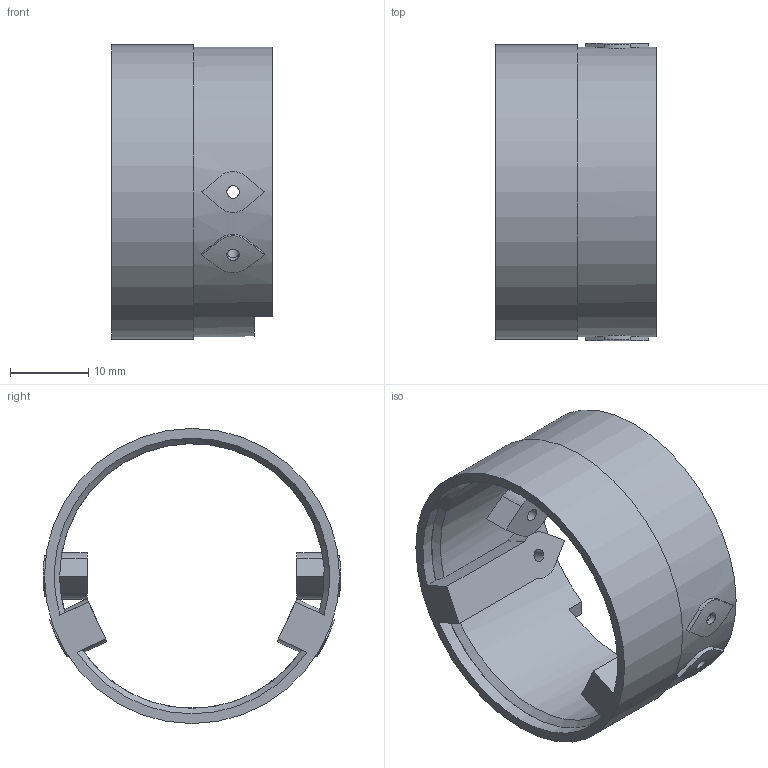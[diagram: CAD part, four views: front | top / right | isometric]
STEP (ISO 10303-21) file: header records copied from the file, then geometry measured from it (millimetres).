
FILE_DESCRIPTION(('SkyG Speed 90B - revision C6B-6 - 2026-10-08','TC-tail-coupler'),'2;1');
FILE_NAME('TC-tail-coupler_C6B-6','2026-10-08T12:31:00',('Author'),( 'Open CASCADE'),'Open CASCADE STEP processor 7.9','Open CASCADE 7.9' ,'Unknown');
FILE_SCHEMA(('AUTOMOTIVE_DESIGN { 1 0 10303 214 1 1 1 1 }'));
Length unit declared in the file: millimetre
Products named in the file (1): TC-tail-coupler C6B-6
Bounding box: 20.5 x 38 x 37.7 mm (x, y, z)
Volume: 4780.4 mm3; surface area: 5523.9 mm2
Topology: 1 solids, 1 shells, 79 faces, 220 edges, 143 vertices
Faces by surface type: plane 44, cylinder 33, cone 2
Full cylindrical faces by diameter (mm): 1.6 x8, 33.8 x1, 37 x1, 37.7 x1
Entity records: 7741 total; most frequent: CARTESIAN_POINT 3632, DIRECTION 681, ORIENTED_EDGE 440, PCURVE 440, DEFINITIONAL_REPRESENTATION 440, LINE 281, VECTOR 281, EDGE_CURVE 220
